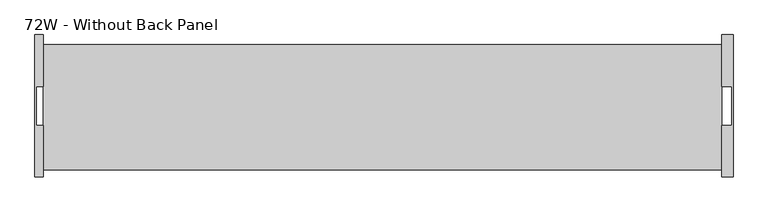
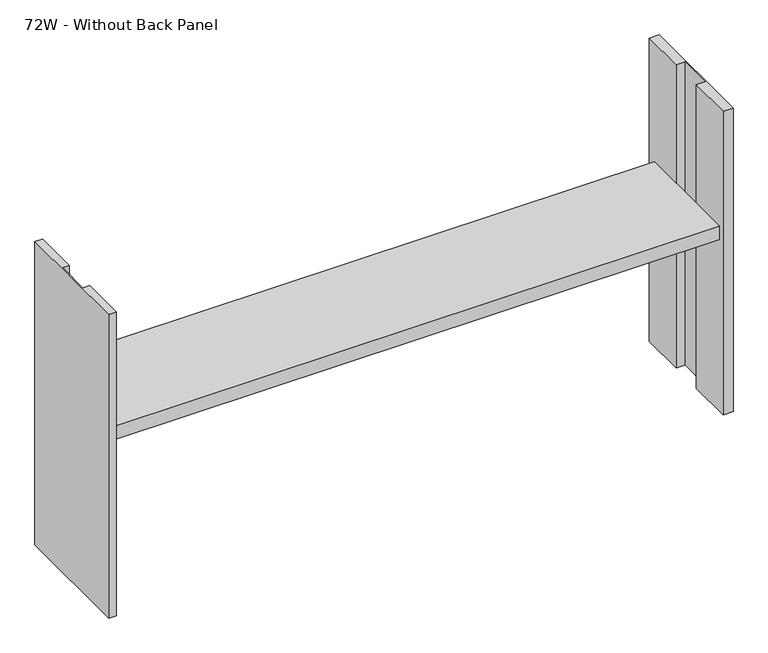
"""IFC4 building model written with IfcOpenShell, lengths in millimetres: furniture geometry, Steelcase - Kick Freestanding - Overhead Storage Cabinet With Shelves : 72W - Without Back Panel."""

from ifc_helpers import new_model, si_unit, frame, origin, place, context, project, spatial, polyline, outline, extrude, source, transform, mapped, element, save


def furniture_72w_without_back_panel_dfc53f25(model_context):
    return source(origin(), model_context, "Body", "SweptSolid", [
        extrude(outline(polyline([(1787.3138992, -53.9750008), (1787.3138992, -377.8257956), (34.7138992, -377.8257956), (34.7138992, -53.9750008), (1787.3138992, -53.9750008)])), frame((0.0, 0.0, 1018.9431215), z_axis=(0.0, 0.0, 1.0), x_axis=(1.0, 0.0, 0.0)), (0.0, 0.0, 1.0), 41.2749516),
        extrude(outline(polyline([(1787.3138992, -28.575), (1816.1, -28.575), (1816.1, -396.875), (1787.3138992, -396.875), (1787.3138992, -263.5265924), (1812.923793, -263.5265924), (1812.923793, -161.9265984), (1787.3138992, -161.9265984), (1787.3138992, -28.575)])), frame((0.0, 0.0, 495.068073), z_axis=(0.0, 0.0, 1.0), x_axis=(1.0, 0.0, 0.0)), (0.0, 0.0, 1.0), 927.1),
        extrude(outline(polyline([(34.7138992, -28.575), (34.7138992, -161.9250023), (15.8750004, -161.9250023), (15.8750004, -263.5249962), (34.7138992, -263.5249962), (34.7138992, -396.875), (12.7, -396.875), (12.7, -28.575), (34.7138992, -28.575)])), frame((0.0, 0.0, 495.068073), z_axis=(0.0, 0.0, 1.0), x_axis=(1.0, 0.0, 0.0)), (0.0, 0.0, 1.0), 927.1),
    ])


if __name__ == "__main__":
    model = new_model("IFC4")
    model_context = context("Model", 3, world=origin())
    ifc_project = project(units=[si_unit("LENGTHUNIT", "METRE", prefix="MILLI")], contexts=[model_context])
    site = spatial("IfcSite", under=ifc_project)
    building = spatial("IfcBuilding", under=site)
    placement = place(None, origin())
    furniture_72w_without_back_panel_shape = furniture_72w_without_back_panel_dfc53f25(model_context)
    element("IfcFurniture", 1, ObjectType="Steelcase - Kick Freestanding - Overhead Storage Cabinet With Shelves : 72W - Without Back Panel", at=placement, inside=building, context=model_context, shape_type="MappedRepresentation", body=[
        mapped(furniture_72w_without_back_panel_shape, transform((0.0, 0.0, 0.0), x_axis=(1.0, 0.0, 0.0), y_axis=(0.0, 1.0, 0.0), z_axis=(0.0, 0.0, 1.0))),
    ])
    save(model, "model.ifc")
